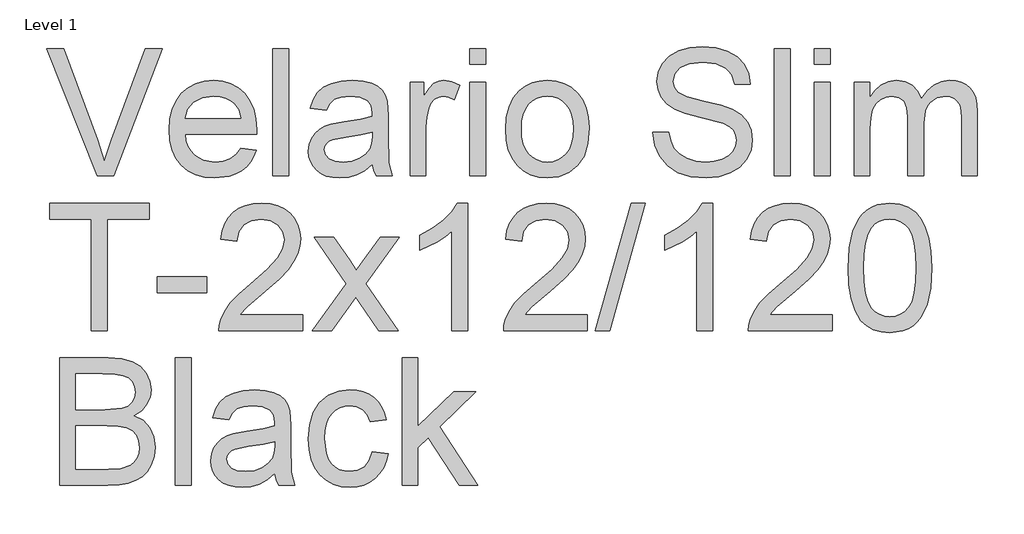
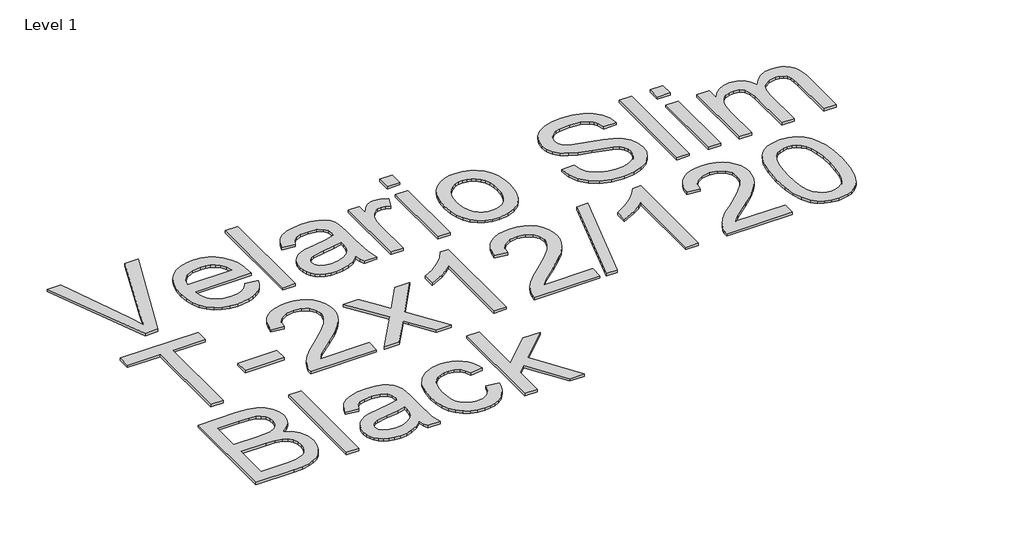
# One storey, part 2 of 13: 1 proxy.
"""IFC4 building model written with IfcOpenShell, lengths in millimetres."""

from ifc_helpers import new_model, si_unit, frame, origin, place, context, project, spatial, polyline, outline, extrude, element, save

model = new_model("IFC4")

# Units and contexts
model_context = context("Model", 3, world=origin())
ifc_project = project(units=[si_unit("LENGTHUNIT", "METRE", prefix="MILLI")], contexts=[model_context])

# Site, building, storey
site = spatial("IfcSite", under=ifc_project)
building = spatial("IfcBuilding", under=site)
storey = spatial("IfcBuildingStorey", under=building, Name="Level 1", Elevation=4000.0)

# Proxy
placement = place(None, origin())
element("IfcBuildingElementProxy", 1, Name="Elysium 400mm Arial", ObjectType="Elysium 400mm Arial", at=placement, inside=storey, context=model_context, shape_type="SweptSolid", body=[
    extrude(outline(polyline([(33101.8504181, -17959.2083157), (32941.9443775, -17557.3830752), (32995.7041998, -17557.3830752), (33102.7333349, -17846.8816799), (33124.4138471, -17912.1194204), (33145.8000538, -17846.8816799), (33253.1234945, -17557.3830752), (33306.8833168, -17557.3830752), (33153.7463049, -17959.2083157), (33101.8504181, -17959.2083157)])), frame((0.0, 0.0, 4000.0), z_axis=(0.0, 0.0, 1.0), x_axis=(1.0, 0.0, 0.0)), (0.0, 0.0, 1.0), 10.0),
    extrude(outline(polyline([(33553.9038138, -17871.3090444), (33603.1509502, -17877.5875638), (33595.6001723, -17897.3121701), (33585.4067753, -17914.6945943), (33572.5707594, -17929.7348366), (33557.0921244, -17942.4328968), (33539.130286, -17952.5189948), (33518.8446596, -17959.7233505), (33471.3020431, -17965.4868351), (33440.1363068, -17963.000566), (33412.3673475, -17955.5417585), (33387.9951653, -17943.1104128), (33367.0197602, -17925.7065287), (33350.1523708, -17903.8144843), (33338.1042354, -17877.9186575), (33330.8753542, -17848.0190484), (33328.4657271, -17814.1156569), (33330.8998797, -17779.0626341), (33338.2023373, -17748.1666779), (33350.3731, -17721.4277882), (33367.4121677, -17698.845965), (33388.3323905, -17680.9055864), (33412.1466183, -17668.0910302), (33438.8548512, -17660.4022965), (33468.457089, -17657.8393853), (33497.1058994, -17660.3961652), (33523.0139889, -17668.0665048), (33546.1813576, -17680.8504041), (33566.6080054, -17698.7478632), (33583.2822568, -17721.2806354), (33595.1924364, -17747.9704741), (33602.3385441, -17778.8173794), (33604.7205801, -17813.8213513), (33604.4262745, -17827.3594087), (33378.6938822, -17827.3594087), (33381.6032157, -17847.402846), (33387.38816, -17864.9569486), (33396.0487153, -17880.0217163), (33407.5848816, -17892.5971492), (33421.3589966, -17902.5115689), (33436.7333983, -17909.5932973), (33472.2830618, -17915.2586801), (33499.0158201, -17912.6344552), (33521.5301982, -17904.7617805), (33539.8261961, -17891.1501466), (33553.9038138, -17871.3090444)]), holes=[polyline([(33378.6938822, -17777.1312536), (33554.492425, -17777.1312536), (33547.6988708, -17750.594699), (33534.3815426, -17731.6119881), (33520.6840696, -17721.3112922), (33505.0981358, -17713.9536523), (33487.623741, -17709.5390684), (33468.2608853, -17708.0675404), (33434.403479, -17712.7641672), (33406.4076592, -17726.8540476), (33386.9467016, -17748.8166027), (33378.6938822, -17777.1312536)])]), frame((0.0, 0.0, 4000.0), z_axis=(0.0, 0.0, 1.0), x_axis=(1.0, 0.0, 0.0)), (0.0, 0.0, 1.0), 10.0),
    extrude(outline(polyline([(33654.9487351, -17959.2083157), (33654.9487351, -17557.3830752), (33705.1768902, -17557.3830752), (33705.1768902, -17959.2083157), (33654.9487351, -17959.2083157)])), frame((0.0, 0.0, 4000.0), z_axis=(0.0, 0.0, 1.0), x_axis=(1.0, 0.0, 0.0)), (0.0, 0.0, 1.0), 10.0),
    extrude(outline(polyline([(33968.8747043, -17921.5371994), (33944.8765355, -17942.1140657), (33920.1671282, -17955.5785467), (33894.1823966, -17963.009763), (33866.358255, -17965.4868351), (33843.9940954, -17963.9969131), (33824.3829194, -17959.5271468), (33807.5247269, -17952.0775364), (33793.4195181, -17941.6480818), (33782.2818907, -17928.9009707), (33774.3264426, -17914.4983906), (33769.5531737, -17898.4403415), (33767.962084, -17880.7268234), (33770.3655797, -17859.9047025), (33777.5760669, -17840.995568), (33788.6983658, -17824.8087602), (33802.8372972, -17812.1536195), (33819.4533006, -17802.5886877), (33838.0068159, -17795.6725062), (33881.4659423, -17788.1186625), (33932.8222688, -17780.1724114), (33968.5803987, -17770.8527342), (33968.8747043, -17759.6691216), (33965.4166136, -17737.2528453), (33955.0423413, -17722.5866165), (33931.8412502, -17711.6973094), (33899.5166855, -17708.0675404), (33869.5956166, -17710.4832988), (33848.6999193, -17717.7305741), (33834.4506233, -17731.1337415), (33824.4687585, -17752.0171761), (33774.2406034, -17745.7386567), (33782.9594067, -17718.2701344), (33795.9701666, -17696.687724), (33814.4868937, -17680.1820851), (33839.7235986, -17667.9438774), (33870.588898, -17660.3655083), (33905.9914086, -17657.8393853), (33939.9469168, -17660.0712027), (33966.8636161, -17666.7666551), (33987.1584395, -17676.834359), (34001.2483199, -17689.1829313), (34010.5925226, -17704.4500341), (34016.6503128, -17723.2733295), (34019.1028594, -17767.2229652), (34019.1028594, -17829.7138534), (34021.6535079, -17916.9754627), (34031.6598982, -17959.2083157), (33981.4317431, -17959.2083157), (33973.3873902, -17941.7461837), (33968.8747043, -17921.5371994)]), holes=[polyline([(33968.8747043, -17821.0808893), (33935.1276627, -17829.4440733), (33887.8425635, -17836.4828822), (33844.6286918, -17844.625337), (33833.3837655, -17850.1926178), (33825.0573697, -17857.8690888), (33819.9070218, -17867.0661387), (33818.1902391, -17877.1951563), (33821.9303727, -17892.1311653), (33833.1507736, -17904.369373), (33851.606187, -17912.5363533), (33877.0513583, -17915.2586801), (33904.0293713, -17912.2543104), (33927.8681246, -17903.2412016), (33947.1941921, -17889.9606615), (33960.6341477, -17874.1539985), (33966.593836, -17857.8690888), (33968.5803987, -17835.3056598), (33968.8747043, -17821.0808893)])]), frame((0.0, 0.0, 4000.0), z_axis=(0.0, 0.0, 1.0), x_axis=(1.0, 0.0, 0.0)), (0.0, 0.0, 1.0), 10.0),
    extrude(outline(polyline([(34088.1665726, -17959.2083157), (34088.1665726, -17664.1179047), (34132.1162083, -17664.1179047), (34132.1162083, -17707.7732348), (34148.3520671, -17682.4629535), (34163.3126015, -17667.55147), (34178.3221869, -17660.2674065), (34194.7051984, -17657.8393853), (34219.7211741, -17661.714409), (34245.1295573, -17673.33948), (34228.3541383, -17718.3682362), (34210.6958025, -17710.6427143), (34193.0374667, -17708.0675404), (34178.0401441, -17710.5446125), (34164.6369767, -17717.9758288), (34153.8089833, -17729.7971036), (34146.5371825, -17745.4443511), (34140.4303414, -17773.5014846), (34138.3947277, -17804.1092666), (34138.3947277, -17959.2083157), (34088.1665726, -17959.2083157)])), frame((0.0, 0.0, 4000.0), z_axis=(0.0, 0.0, 1.0), x_axis=(1.0, 0.0, 0.0)), (0.0, 0.0, 1.0), 10.0),
    extrude(outline(polyline([(34276.5221542, -17607.6112302), (34276.5221542, -17557.3830752), (34326.7503093, -17557.3830752), (34326.7503093, -17607.6112302), (34276.5221542, -17607.6112302)])), frame((0.0, 0.0, 4000.0), z_axis=(0.0, 0.0, 1.0), x_axis=(1.0, 0.0, 0.0)), (0.0, 0.0, 1.0), 10.0),
    extrude(outline(polyline([(34276.5221542, -17959.2083157), (34276.5221542, -17664.1179047), (34326.7503093, -17664.1179047), (34326.7503093, -17959.2083157), (34276.5221542, -17959.2083157)])), frame((0.0, 0.0, 4000.0), z_axis=(0.0, 0.0, 1.0), x_axis=(1.0, 0.0, 0.0)), (0.0, 0.0, 1.0), 10.0),
    extrude(outline(polyline([(34389.5355031, -17811.6631102), (34392.2516985, -17773.4463023), (34400.4002847, -17740.5147324), (34413.9812617, -17712.8684004), (34432.9946295, -17690.5073065), (34452.1367559, -17676.215091), (34473.2654452, -17666.0063656), (34496.3806972, -17659.8811304), (34521.482512, -17657.8393853), (34549.1932233, -17660.3256545), (34574.2490529, -17667.7844619), (34596.6500007, -17680.2158077), (34616.3960668, -17697.6196917), (34632.5123639, -17719.4075029), (34644.0240046, -17744.99063), (34650.9309891, -17774.369073), (34653.2333172, -17807.5428319), (34649.1620898, -17858.2860217), (34636.9484076, -17896.9136312), (34616.9478898, -17925.8414188), (34589.5161557, -17947.4851428), (34556.9340736, -17960.9864121), (34521.482512, -17965.4868351), (34493.3671306, -17963.009763), (34468.0783091, -17955.5785467), (34445.6160476, -17943.1931862), (34425.9803461, -17925.8536815), (34410.0357273, -17903.8543382), (34398.6467138, -17877.4894619), (34391.8133058, -17846.7590526), (34389.5355031, -17811.6631102)]), holes=[polyline([(34439.7636582, -17811.5650084), (34441.2167921, -17835.9279935), (34445.5761937, -17857.0229602), (34452.8418631, -17874.8499086), (34463.0138003, -17889.4088385), (34475.386898, -17900.7181442), (34489.2560493, -17908.7962197), (34504.6212539, -17913.643065), (34521.482512, -17915.2586801), (34538.257931, -17913.6338679), (34553.561822, -17908.7594315), (34567.394185, -17900.6353708), (34579.7550201, -17889.2616857), (34589.9269572, -17874.5586687), (34597.1926266, -17856.4466118), (34601.5520283, -17834.925515), (34603.0051622, -17809.9953785), (34601.5428312, -17786.4049456), (34597.1558384, -17765.8618018), (34589.8441838, -17748.3659473), (34579.6078673, -17733.9173819), (34567.201047, -17722.6080762), (34553.377881, -17714.5300008), (34538.1383694, -17709.6831555), (34521.482512, -17708.0675404), (34504.6212539, -17709.6770241), (34489.2560493, -17714.5054753), (34475.386898, -17722.5528939), (34463.0138003, -17733.81928), (34452.8418631, -17748.3352904), (34445.5761937, -17766.1315819), (34441.2167921, -17787.2081546), (34439.7636582, -17811.5650084)])]), frame((0.0, 0.0, 4000.0), z_axis=(0.0, 0.0, 1.0), x_axis=(1.0, 0.0, 0.0)), (0.0, 0.0, 1.0), 10.0),
    extrude(outline(polyline([(34854.1459375, -17821.0808893), (34904.3740926, -17821.0808893), (34910.1375772, -17848.9540818), (34920.5609004, -17871.3580953), (34936.8212846, -17889.1390584), (34960.0959521, -17903.1430997), (34988.5454931, -17912.229785), (35020.3304975, -17915.2586801), (35048.3140546, -17912.965549), (35072.8149955, -17906.0861556), (35092.6683605, -17895.1968486), (35106.70919, -17880.8739762), (35115.0601112, -17864.4296511), (35117.8437517, -17847.1759855), (35115.759087, -17830.3637783), (35109.5050931, -17815.8324395), (35096.8009016, -17803.4348163), (35075.365644, -17793.0237558), (35002.2307033, -17773.8448411), (34954.222103, -17761.1529123), (34923.5039564, -17749.0741201), (34898.5002434, -17732.1760738), (34880.780594, -17711.6973094), (34870.2223807, -17688.0792853), (34866.7029763, -17661.7634599), (34871.0562466, -17632.345163), (34884.1160574, -17604.9134289), (34905.5390523, -17581.6632868), (34934.9818746, -17564.789766), (34970.3230716, -17554.5258583), (35009.4411904, -17551.1045558), (35051.8211963, -17554.6852739), (35088.9037014, -17565.4274281), (35119.3643306, -17583.1102893), (35141.8787087, -17607.5131284), (35156.1280046, -17637.1153662), (35161.7933874, -17670.3964241), (35111.5652323, -17670.3964241), (35102.3436569, -17640.4263042), (35093.9804729, -17628.5682412), (35083.1156913, -17618.7948429), (35053.0719951, -17605.6982439), (35011.4032277, -17601.3327108), (34968.7534418, -17605.6491929), (34952.450138, -17611.0447955), (34939.4945604, -17618.5986391), (34922.5719886, -17637.6549265), (34916.9311314, -17660.2919319), (34920.9287824, -17679.5934739), (34932.9217354, -17695.1180941), (34961.2731745, -17708.9995081), (35014.9348949, -17723.1752276), (35070.3133979, -17736.6397087), (35103.8151849, -17748.387407), (35132.4486669, -17766.6098285), (35152.4246592, -17789.0996812), (35164.1600949, -17815.6117103), (35168.0719068, -17845.9006612), (35163.5714837, -17876.8640625), (35150.0702145, -17905.9880538), (35128.1199221, -17931.0530804), (35098.2724295, -17949.8395876), (35062.3794095, -17961.5750233), (35022.2925348, -17965.4868351), (34973.0821866, -17961.2684549), (34932.5783789, -17948.6133143), (34900.3151279, -17927.4723623), (34875.8264498, -17897.796548), (34860.1056259, -17861.6460106), (34854.1459375, -17821.0808893)])), frame((0.0, 0.0, 4000.0), z_axis=(0.0, 0.0, 1.0), x_axis=(1.0, 0.0, 0.0)), (0.0, 0.0, 1.0), 10.0),
    extrude(outline(polyline([(35237.13562, -17959.2083157), (35237.13562, -17557.3830752), (35287.3637751, -17557.3830752), (35287.3637751, -17959.2083157), (35237.13562, -17959.2083157)])), frame((0.0, 0.0, 4000.0), z_axis=(0.0, 0.0, 1.0), x_axis=(1.0, 0.0, 0.0)), (0.0, 0.0, 1.0), 10.0),
    extrude(outline(polyline([(35362.7060077, -17607.6112302), (35362.7060077, -17557.3830752), (35412.9341627, -17557.3830752), (35412.9341627, -17607.6112302), (35362.7060077, -17607.6112302)])), frame((0.0, 0.0, 4000.0), z_axis=(0.0, 0.0, 1.0), x_axis=(1.0, 0.0, 0.0)), (0.0, 0.0, 1.0), 10.0),
    extrude(outline(polyline([(35362.7060077, -17959.2083157), (35362.7060077, -17664.1179047), (35412.9341627, -17664.1179047), (35412.9341627, -17959.2083157), (35362.7060077, -17959.2083157)])), frame((0.0, 0.0, 4000.0), z_axis=(0.0, 0.0, 1.0), x_axis=(1.0, 0.0, 0.0)), (0.0, 0.0, 1.0), 10.0),
    extrude(outline(polyline([(35488.2763954, -17959.2083157), (35488.2763954, -17664.1179047), (35538.5045504, -17664.1179047), (35538.5045504, -17712.678328), (35553.6122377, -17690.3724164), (35573.036407, -17672.8980216), (35596.1148709, -17661.6040444), (35622.1854416, -17657.8393853), (35650.1199478, -17661.6776208), (35672.5116985, -17673.1923272), (35689.2380666, -17691.6232152), (35700.1764246, -17716.2099952), (35718.4846852, -17690.6728534), (35739.3681198, -17672.4320378), (35762.8267284, -17661.4875484), (35788.8605109, -17657.8393853), (35808.9683276, -17659.3568985), (35826.6174663, -17663.9094382), (35841.807927, -17671.4970044), (35854.5397098, -17682.119597), (35864.604348, -17695.8998434), (35871.7933753, -17712.9603709), (35876.1067917, -17733.3011796), (35877.5445972, -17756.9222693), (35877.5445972, -17959.2083157), (35827.3164421, -17959.2083157), (35827.3164421, -17778.5046797), (35826.1514825, -17753.4519158), (35822.6566035, -17736.5661323), (35816.108304, -17725.0023749), (35805.7830827, -17715.9156896), (35792.5025426, -17710.0295777), (35777.088287, -17708.0675404), (35749.8772821, -17713.095261), (35727.6939978, -17728.1784228), (35719.0886248, -17739.7483115), (35712.9419298, -17754.3470954), (35708.0245738, -17792.6313483), (35708.0245738, -17959.2083157), (35657.7964187, -17959.2083157), (35657.7964187, -17772.9128734), (35654.890151, -17744.5123834), (35646.1713477, -17724.2543482), (35630.8306685, -17712.1142423), (35608.058773, -17708.0675404), (35588.70818, -17710.7653417), (35570.878166, -17718.8587456), (35556.1628862, -17732.1515483), (35546.1564959, -17750.4475462), (35540.4175368, -17775.8314039), (35538.5045504, -17810.387786), (35538.5045504, -17959.2083157), (35488.2763954, -17959.2083157)])), frame((0.0, 0.0, 4000.0), z_axis=(0.0, 0.0, 1.0), x_axis=(1.0, 0.0, 0.0)), (0.0, 0.0, 1.0), 10.0),
    extrude(outline(polyline([(33083.6034712, -18447.1075871), (33083.6034712, -18095.5105016), (32951.7545641, -18095.5105016), (32951.7545641, -18045.2823465), (33265.6805333, -18045.2823465), (33265.6805333, -18095.5105016), (33133.8316262, -18095.5105016), (33133.8316262, -18447.1075871), (33083.6034712, -18447.1075871)])), frame((0.0, 0.0, 4000.0), z_axis=(0.0, 0.0, 1.0), x_axis=(1.0, 0.0, 0.0)), (0.0, 0.0, 1.0), 10.0),
    extrude(outline(polyline([(33290.7946108, -18327.8157188), (33290.7946108, -18277.5875638), (33447.7575954, -18277.5875638), (33447.7575954, -18327.8157188), (33290.7946108, -18327.8157188)])), frame((0.0, 0.0, 4000.0), z_axis=(0.0, 0.0, 1.0), x_axis=(1.0, 0.0, 0.0)), (0.0, 0.0, 1.0), 10.0),
    extrude(outline(polyline([(33749.1265259, -18396.8794321), (33749.1265259, -18447.1075871), (33485.4287117, -18447.1075871), (33486.5323577, -18429.4247259), (33490.8243143, -18412.4776287), (33503.2096748, -18385.4137765), (33521.3339945, -18359.1592648), (33547.551718, -18331.6784798), (33584.2172902, -18300.9358077), (33638.4185708, -18252.7923173), (33670.9393392, -18217.2549165), (33687.1997234, -18188.4129681), (33692.6198514, -18160.3558346), (33687.5062917, -18135.2049689), (33672.1656125, -18114.2970088), (33648.5843766, -18100.2071284), (33618.7491468, -18095.5105016), (33587.4178635, -18100.0967638), (33563.0763382, -18113.8555504), (33547.367777, -18135.7077409), (33541.9353862, -18164.5742148), (33491.7072311, -18158.2956955), (33496.0267789, -18132.3661462), (33503.8841252, -18109.7107466), (33515.27927, -18090.3294968), (33530.2122133, -18074.2223968), (33548.3395986, -18061.5611248), (33569.3180694, -18052.5173591), (33593.1476256, -18047.0910997), (33619.8282673, -18045.2823465), (33646.7480323, -18047.2934348), (33670.7063473, -18053.3266995), (33691.7032121, -18063.3821407), (33709.7386269, -18077.4597584), (33724.2239805, -18094.5172202), (33734.5706616, -18113.5121939), (33740.7786703, -18134.4446794), (33742.8480065, -18157.3146768), (33740.6161891, -18181.3373711), (33733.9207368, -18204.9431324), (33722.0381483, -18228.953564), (33704.2449225, -18254.1902689), (33675.8812207, -18284.3198043), (33632.2872042, -18323.0087274), (33574.5052055, -18371.3238961), (33551.8436746, -18396.8794321), (33749.1265259, -18396.8794321)])), frame((0.0, 0.0, 4000.0), z_axis=(0.0, 0.0, 1.0), x_axis=(1.0, 0.0, 0.0)), (0.0, 0.0, 1.0), 10.0),
    extrude(outline(polyline([(33780.5191228, -18447.1075871), (33887.8425635, -18298.7775667), (33786.7976422, -18152.0171761), (33847.2283913, -18152.0171761), (33895.9850184, -18222.6505191), (33918.7446511, -18256.0051534), (33938.4631261, -18228.7328348), (33993.9887819, -18152.0171761), (34054.419531, -18152.0171761), (33948.2733126, -18298.7775667), (34050.4954563, -18447.1075871), (33990.0647073, -18447.1075871), (33928.5548377, -18357.9329915), (33917.2731232, -18341.6480818), (33840.9498719, -18447.1075871), (33780.5191228, -18447.1075871)])), frame((0.0, 0.0, 4000.0), z_axis=(0.0, 0.0, 1.0), x_axis=(1.0, 0.0, 0.0)), (0.0, 0.0, 1.0), 10.0),
    extrude(outline(polyline([(34270.2436348, -18447.1075871), (34220.0154797, -18447.1075871), (34220.0154797, -18133.9664328), (34199.046206, -18150.9257928), (34172.436075, -18167.8606273), (34119.5591696, -18193.2199595), (34119.5591696, -18145.7386567), (34159.0083822, -18124.2788736), (34193.1846195, -18098.7478632), (34220.1258443, -18071.5981719), (34237.8700192, -18045.2823465), (34270.2436348, -18045.2823465), (34270.2436348, -18447.1075871)])), frame((0.0, 0.0, 4000.0), z_axis=(0.0, 0.0, 1.0), x_axis=(1.0, 0.0, 0.0)), (0.0, 0.0, 1.0), 10.0),
    extrude(outline(polyline([(34646.9547979, -18396.8794321), (34646.9547979, -18447.1075871), (34383.2569837, -18447.1075871), (34384.3606297, -18429.4247259), (34388.6525863, -18412.4776287), (34401.0379468, -18385.4137765), (34419.1622664, -18359.1592648), (34445.37999, -18331.6784798), (34482.0455621, -18300.9358077), (34536.2468428, -18252.7923173), (34568.7676111, -18217.2549165), (34585.0279953, -18188.4129681), (34590.4481234, -18160.3558346), (34585.3345637, -18135.2049689), (34569.9938845, -18114.2970088), (34546.4126486, -18100.2071284), (34516.5774188, -18095.5105016), (34485.2461355, -18100.0967638), (34460.9046102, -18113.8555504), (34445.196049, -18135.7077409), (34439.7636582, -18164.5742148), (34389.5355031, -18158.2956955), (34393.8550509, -18132.3661462), (34401.7123971, -18109.7107466), (34413.1075419, -18090.3294968), (34428.0404853, -18074.2223968), (34446.1678706, -18061.5611248), (34467.1463413, -18052.5173591), (34490.9758976, -18047.0910997), (34517.6565393, -18045.2823465), (34544.5763043, -18047.2934348), (34568.5346192, -18053.3266995), (34589.5314841, -18063.3821407), (34607.5668989, -18077.4597584), (34622.0522525, -18094.5172202), (34632.3989336, -18113.5121939), (34638.6069422, -18134.4446794), (34640.6762785, -18157.3146768), (34638.444461, -18181.3373711), (34631.7490087, -18204.9431324), (34619.8664203, -18228.953564), (34602.0731944, -18254.1902689), (34573.7094926, -18284.3198043), (34530.1154762, -18323.0087274), (34472.3334775, -18371.3238961), (34449.6719466, -18396.8794321), (34646.9547979, -18396.8794321)])), frame((0.0, 0.0, 4000.0), z_axis=(0.0, 0.0, 1.0), x_axis=(1.0, 0.0, 0.0)), (0.0, 0.0, 1.0), 10.0),
    extrude(outline(polyline([(34672.0688754, -18447.1075871), (34785.0822243, -18045.2823465), (34830.4052861, -18045.2823465), (34717.3919372, -18447.1075871), (34672.0688754, -18447.1075871)])), frame((0.0, 0.0, 4000.0), z_axis=(0.0, 0.0, 1.0), x_axis=(1.0, 0.0, 0.0)), (0.0, 0.0, 1.0), 10.0),
    extrude(outline(polyline([(35042.5015191, -18447.1075871), (34992.273364, -18447.1075871), (34992.273364, -18133.9664328), (34971.3040903, -18150.9257928), (34944.6939593, -18167.8606273), (34891.8170538, -18193.2199595), (34891.8170538, -18145.7386567), (34931.2662665, -18124.2788736), (34965.4425038, -18098.7478632), (34992.3837286, -18071.5981719), (35010.1279035, -18045.2823465), (35042.5015191, -18045.2823465), (35042.5015191, -18447.1075871)])), frame((0.0, 0.0, 4000.0), z_axis=(0.0, 0.0, 1.0), x_axis=(1.0, 0.0, 0.0)), (0.0, 0.0, 1.0), 10.0),
    extrude(outline(polyline([(35419.2126821, -18396.8794321), (35419.2126821, -18447.1075871), (35155.514868, -18447.1075871), (35156.618514, -18429.4247259), (35160.9104706, -18412.4776287), (35173.2958311, -18385.4137765), (35191.4201507, -18359.1592648), (35217.6378742, -18331.6784798), (35254.3034464, -18300.9358077), (35308.504727, -18252.7923173), (35341.0254954, -18217.2549165), (35357.2858796, -18188.4129681), (35362.7060077, -18160.3558346), (35357.5924479, -18135.2049689), (35342.2517687, -18114.2970088), (35318.6705328, -18100.2071284), (35288.835303, -18095.5105016), (35257.5040198, -18100.0967638), (35233.1624944, -18113.8555504), (35217.4539332, -18135.7077409), (35212.0215424, -18164.5742148), (35161.7933874, -18158.2956955), (35166.1129351, -18132.3661462), (35173.9702814, -18109.7107466), (35185.3654262, -18090.3294968), (35200.2983695, -18074.2223968), (35218.4257548, -18061.5611248), (35239.4042256, -18052.5173591), (35263.2337819, -18047.0910997), (35289.9144236, -18045.2823465), (35316.8341886, -18047.2934348), (35340.7925035, -18053.3266995), (35361.7893684, -18063.3821407), (35379.8247832, -18077.4597584), (35394.3101367, -18094.5172202), (35404.6568179, -18113.5121939), (35410.8648265, -18134.4446794), (35412.9341627, -18157.3146768), (35410.7023453, -18181.3373711), (35404.006893, -18204.9431324), (35392.1243046, -18228.953564), (35374.3310787, -18254.1902689), (35345.9673769, -18284.3198043), (35302.3733605, -18323.0087274), (35244.5913618, -18371.3238961), (35221.9298308, -18396.8794321), (35419.2126821, -18396.8794321)])), frame((0.0, 0.0, 4000.0), z_axis=(0.0, 0.0, 1.0), x_axis=(1.0, 0.0, 0.0)), (0.0, 0.0, 1.0), 10.0),
    extrude(outline(polyline([(35469.4408372, -18249.4323284), (35473.1319199, -18185.1142929), (35484.2051679, -18133.81928), (35502.5502168, -18094.7624749), (35514.4082797, -18079.5290946), (35528.0567018, -18067.1590625), (35543.5414681, -18057.5879993), (35560.9085639, -18050.7515255), (35601.2897443, -18045.2823465), (35632.2408828, -18048.5197081), (35659.9546598, -18058.2317928), (35683.1312255, -18074.0384558), (35700.4707302, -18095.5595525), (35713.5673292, -18122.6111419), (35724.0151779, -18155.009283), (35730.857783, -18196.1507528), (35733.1386513, -18249.4323284), (35729.4843569, -18313.3824819), (35718.5214734, -18364.5548674), (35700.2867892, -18403.6484608), (35688.4563173, -18418.9278263), (35674.8170924, -18431.3622377), (35659.313932, -18440.9976803), (35641.8916538, -18447.8801393), (35601.2897443, -18453.3861065), (35573.6250182, -18450.9948735), (35549.0995519, -18443.8211746), (35527.7133452, -18431.8650098), (35509.4663983, -18415.126379), (35491.9552153, -18384.8680849), (35479.4472275, -18347.1663118), (35471.9424348, -18302.0210596), (35469.4408372, -18249.4323284)]), holes=[polyline([(35519.6689923, -18249.3342265), (35521.1405203, -18292.9987537), (35525.5551042, -18328.3430164), (35532.9127441, -18355.3670146), (35543.21344, -18374.0707484), (35555.6723769, -18386.7963997), (35569.5047399, -18395.8861507), (35584.710529, -18401.3400012), (35601.2897443, -18403.1579514), (35617.8689595, -18401.3338699), (35633.0747487, -18395.8616252), (35646.9071117, -18386.7412174), (35659.3660486, -18373.9726465), (35669.6667444, -18355.2382559), (35677.0243843, -18328.220389), (35681.4389683, -18292.9190459), (35682.9104963, -18249.3342265), (35681.4880192, -18206.825462), (35677.2205881, -18172.103533), (35670.1082028, -18145.1684396), (35660.1508635, -18126.0201817), (35647.9003931, -18112.6721967), (35633.9086145, -18103.1379216), (35618.1755279, -18097.4173566), (35600.7011331, -18095.5105016), (35584.207757, -18097.1904961), (35569.2594852, -18102.2304794), (35555.8563179, -18110.6304516), (35543.9982549, -18122.3904127), (35533.3542025, -18143.2370591), (35525.7513079, -18171.3432435), (35521.1895712, -18206.708966), (35519.6689923, -18249.3342265)])]), frame((0.0, 0.0, 4000.0), z_axis=(0.0, 0.0, 1.0), x_axis=(1.0, 0.0, 0.0)), (0.0, 0.0, 1.0), 10.0),
    extrude(outline(polyline([(32983.147161, -18935.0068585), (32983.147161, -18533.1816179), (33136.4803766, -18533.1816179), (33178.651916, -18536.1369366), (33211.5773545, -18545.0028927), (33236.8140594, -18560.0002154), (33255.9193977, -18581.3496338), (33267.9491389, -18606.4637114), (33271.9590527, -18632.7550113), (33268.5868011, -18656.9493838), (33258.4700462, -18679.6967539), (33241.5352117, -18699.5991698), (33217.7087211, -18715.2586801), (33246.1705248, -18730.1211127), (33267.2011122, -18752.7335926), (33280.1873466, -18781.6000665), (33284.5160914, -18815.2244809), (33281.5607728, -18843.2448262), (33272.6948167, -18869.2295578), (33259.4633276, -18891.327003), (33243.4114099, -18907.685489), (33223.7542486, -18919.5312892), (33199.7070288, -18928.090677), (33170.4849357, -18933.2778131), (33135.3031542, -18935.0068585), (32983.147161, -18935.0068585)]), holes=[polyline([(33033.3753161, -18696.4231219), (33125.1005602, -18696.4231219), (33178.6641787, -18692.1066398), (33197.4138977, -18684.6631608), (33210.8906415, -18673.5163363), (33219.0208336, -18658.8378447), (33221.7308976, -18640.7993642), (33219.2047746, -18623.2881813), (33211.6264055, -18608.0333412), (33199.3391468, -18596.1262273), (33182.6863552, -18588.6582228), (33157.1308193, -18584.7218854), (33118.1353278, -18583.409773), (33033.3753161, -18583.409773), (33033.3753161, -18696.4231219)]), polyline([(33033.3753161, -18884.7787034), (33136.3822747, -18884.7787034), (33173.6609836, -18882.8166661), (33205.2007333, -18871.8783081), (33216.7767534, -18862.4482663), (33226.0964306, -18849.5601338), (33232.2400599, -18833.7902589), (33234.2879364, -18815.7149902), (33231.8844407, -18794.721191), (33224.6739536, -18776.6704478), (33212.0801266, -18762.5560419), (33193.5266113, -18753.3712548), (33167.2475741, -18748.3312714), (33131.4771815, -18746.651277), (33033.3753161, -18746.651277), (33033.3753161, -18884.7787034)])]), frame((0.0, 0.0, 4000.0), z_axis=(0.0, 0.0, 1.0), x_axis=(1.0, 0.0, 0.0)), (0.0, 0.0, 1.0), 10.0),
    extrude(outline(polyline([(33347.3012853, -18935.0068585), (33347.3012853, -18533.1816179), (33397.5294404, -18533.1816179), (33397.5294404, -18935.0068585), (33347.3012853, -18935.0068585)])), frame((0.0, 0.0, 4000.0), z_axis=(0.0, 0.0, 1.0), x_axis=(1.0, 0.0, 0.0)), (0.0, 0.0, 1.0), 10.0),
    extrude(outline(polyline([(33661.2272545, -18897.3357422), (33637.2290857, -18917.9126085), (33612.5196783, -18931.3770895), (33586.5349468, -18938.8083058), (33558.7108052, -18941.2853779), (33536.3466456, -18939.7954558), (33516.7354695, -18935.3256896), (33499.8772771, -18927.8760792), (33485.7720683, -18917.4466246), (33474.6344409, -18904.6995135), (33466.6789927, -18890.2969334), (33461.9057238, -18874.2388843), (33460.3146342, -18856.5253662), (33462.7181299, -18835.7032453), (33469.928617, -18816.7941107), (33481.050916, -18800.6073029), (33495.1898474, -18787.9521623), (33511.8058508, -18778.3872304), (33530.3593661, -18771.4710489), (33573.8184925, -18763.9172053), (33625.174819, -18755.9709542), (33660.9329489, -18746.651277), (33661.2272545, -18735.4676643), (33657.7691638, -18713.0513881), (33647.3948915, -18698.3851592), (33624.1938003, -18687.4958522), (33591.8692357, -18683.8660831), (33561.9481667, -18686.2818416), (33541.0524694, -18693.5291169), (33526.8031735, -18706.9322842), (33516.8213087, -18727.8157188), (33466.5931536, -18721.5371994), (33475.3119569, -18694.0686771), (33488.3227168, -18672.4862668), (33506.8394439, -18655.9806279), (33532.0761487, -18643.7424202), (33562.9414481, -18636.1640511), (33598.3439588, -18633.6379281), (33632.299467, -18635.8697455), (33659.2161663, -18642.5651978), (33679.5109897, -18652.6329017), (33693.6008701, -18664.9814741), (33702.9450728, -18680.2485769), (33709.002863, -18699.0718723), (33711.4554096, -18743.021508), (33711.4554096, -18805.5123962), (33714.0060581, -18892.7740055), (33724.0124484, -18935.0068585), (33673.7842933, -18935.0068585), (33665.7399403, -18917.5447265), (33661.2272545, -18897.3357422)]), holes=[polyline([(33661.2272545, -18796.8794321), (33627.4802128, -18805.2426161), (33580.1951137, -18812.2814249), (33536.981242, -18820.4238797), (33525.7363157, -18825.9911606), (33517.4099199, -18833.6676316), (33512.2595719, -18842.8646815), (33510.5427893, -18852.9936991), (33514.2829229, -18867.9297081), (33525.5033238, -18880.1679158), (33543.9587372, -18888.3348961), (33569.4039085, -18891.0572228), (33596.3819215, -18888.0528532), (33620.2206748, -18879.0397443), (33639.5467423, -18865.7592043), (33652.9866978, -18849.9525412), (33658.9463861, -18833.6676316), (33660.9329489, -18811.1042025), (33661.2272545, -18796.8794321)])]), frame((0.0, 0.0, 4000.0), z_axis=(0.0, 0.0, 1.0), x_axis=(1.0, 0.0, 0.0)), (0.0, 0.0, 1.0), 10.0),
    extrude(outline(polyline([(33968.8747043, -18828.272029), (34019.1028594, -18834.5505484), (34013.6398118, -18858.2513459), (34005.0988181, -18879.2236853), (33993.4798785, -18897.4675666), (33978.7829927, -18912.9829897), (33961.627429, -18925.3652846), (33942.6324554, -18934.2097809), (33921.7980717, -18939.5164786), (33899.1242781, -18941.2853779), (33870.9537143, -18938.8175028), (33845.6955496, -18931.4138777), (33823.3497841, -18919.0745024), (33803.9164177, -18901.7993771), (33788.1863967, -18879.9134641), (33776.9506675, -18853.7417258), (33770.2092299, -18823.2841623), (33767.962084, -18788.5407735), (33771.8003195, -18743.8431111), (33783.315026, -18705.105137), (33802.6901444, -18673.8229047), (33830.1096158, -18651.4924676), (33862.912427, -18638.1015629), (33898.437565, -18633.6379281), (33920.7220169, -18635.1707697), (33940.8788845, -18639.7692946), (33958.908168, -18647.4335029), (33974.8098672, -18658.1633944), (33988.3142021, -18671.7137146), (33999.1513925, -18687.8392087), (34007.3214385, -18706.5398768), (34012.82434, -18727.8157188), (33962.596185, -18734.0942382), (33953.4849742, -18712.180734), (33939.2969919, -18696.4721728), (33920.817053, -18687.0176056), (33898.8299725, -18683.8660831), (33881.7633136, -18685.4173189), (33866.3705178, -18690.0710261), (33852.651585, -18697.8272049), (33840.6065154, -18708.6858551), (33830.7993945, -18722.8983628), (33823.7943082, -18740.7161141), (33819.5912564, -18762.139109), (33818.1902391, -18787.1673474), (33823.6716808, -18834.24398), (33830.523483, -18852.181293), (33840.116006, -18866.3846037), (33851.9219524, -18877.1788746), (33865.4140246, -18884.889068), (33880.5922226, -18889.5151841), (33897.4565463, -18891.0572228), (33923.4658034, -18887.2067246), (33944.7906964, -18875.65523), (33960.3030539, -18856.1084333), (33968.8747043, -18828.272029)])), frame((0.0, 0.0, 4000.0), z_axis=(0.0, 0.0, 1.0), x_axis=(1.0, 0.0, 0.0)), (0.0, 0.0, 1.0), 10.0),
    extrude(outline(polyline([(34063.0524951, -18935.0068585), (34063.0524951, -18533.1816179), (34113.2806502, -18533.1816179), (34113.2806502, -18749.1038236), (34225.9015916, -18639.9164474), (34295.3577123, -18639.9164474), (34181.3633448, -18750.4772497), (34301.6362317, -18935.0068585), (34242.9713162, -18935.0068585), (34145.3599602, -18785.4015138), (34113.2806502, -18816.4998051), (34113.2806502, -18935.0068585), (34063.0524951, -18935.0068585)])), frame((0.0, 0.0, 4000.0), z_axis=(0.0, 0.0, 1.0), x_axis=(1.0, 0.0, 0.0)), (0.0, 0.0, 1.0), 10.0),
])

save(model, "model.ifc")
